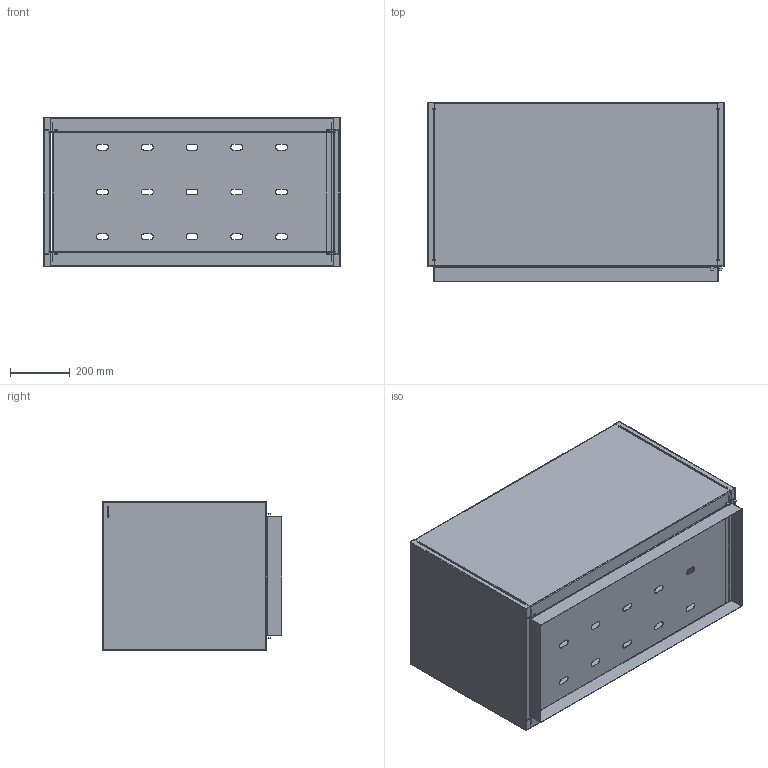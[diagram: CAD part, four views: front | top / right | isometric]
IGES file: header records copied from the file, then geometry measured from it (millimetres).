
Start section: SolidWorks IGES file using analytic representation for surfaces
Global section: file name: C:\VaultDeCastelli\Progetti\DC\PESO LEGGERO PRODOTTI\Ale\DeCastelli-3D-A-Modulo 60.igs; native system: SolidWorks 2022; preprocessor: SolidWorks 2022; author: AlessandroP; date: 240726.104106; units: millimetre
Bounding box: 994 x 600 x 500 mm (x, y, z)
Surface area: 4257497.5 mm2 (no closed solid volume)
Topology: 0 solids, 0 shells, 301 faces, 4157 edges, 4157 vertices
Faces by surface type: bspline 196, revolution 105
